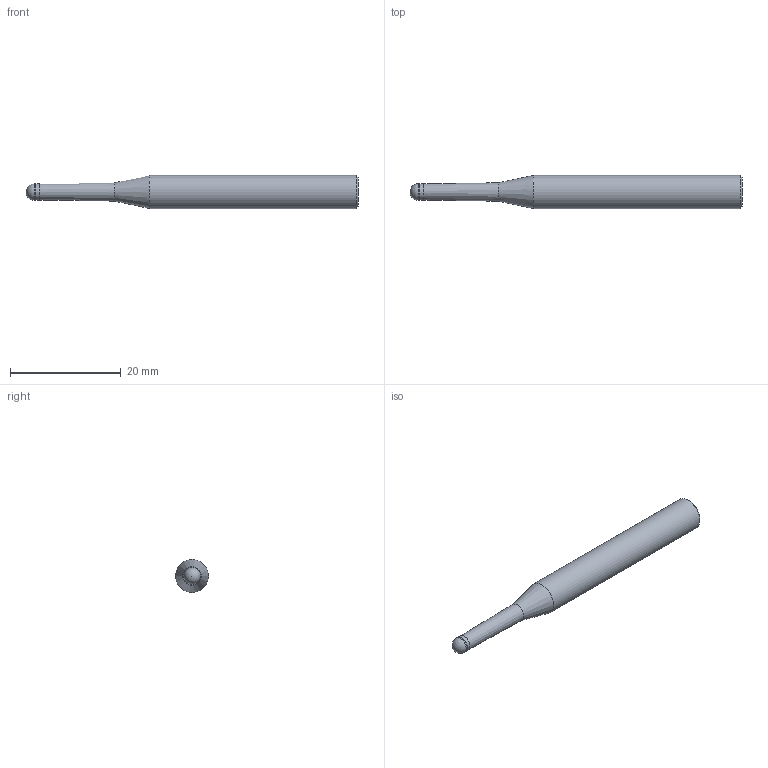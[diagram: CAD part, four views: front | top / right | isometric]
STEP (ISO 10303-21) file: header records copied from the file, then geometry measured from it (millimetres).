
FILE_DESCRIPTION(/* description */ (''),/* implementation_level */ '2;1');
FILE_NAME(/* name */ 'HGXPB2030-16-T0.9 0660.stp',/* time_stamp */ '2026-01-23T15:34:31+08:00',/* author */ (''),/* organization */ (''),/* preprocessor_version */ 'ST-DEVELOPER v16',/* originating_system */ 'SIEMENS PLM Software NX 10.0',/* authorisation */ '');
FILE_SCHEMA (('CONFIG_CONTROL_DESIGN'));
Length unit declared in the file: millimetre
Products named in the file (1): HGXPB2030-16-T0.9 0660_dxf
Bounding box: 60 x 6 x 6 mm (x, y, z)
Volume: 1292.3 mm3; surface area: 985.6 mm2
Topology: 1 solids, 1 shells, 9 faces, 16 edges, 9 vertices
Faces by surface type: cylinder 3, cone 3, plane 2, sphere 1
Full cylindrical faces by diameter (mm): 2.9 x1, 3 x1, 6 x1
Entity records: 258 total; most frequent: DIRECTION 36, CARTESIAN_POINT 26, AXIS2_PLACEMENT_3D 18, EDGE_LOOP 16, ORIENTED_EDGE 16, FACE_BOUND 14, ADVANCED_FACE 9, VERTEX_POINT 8
